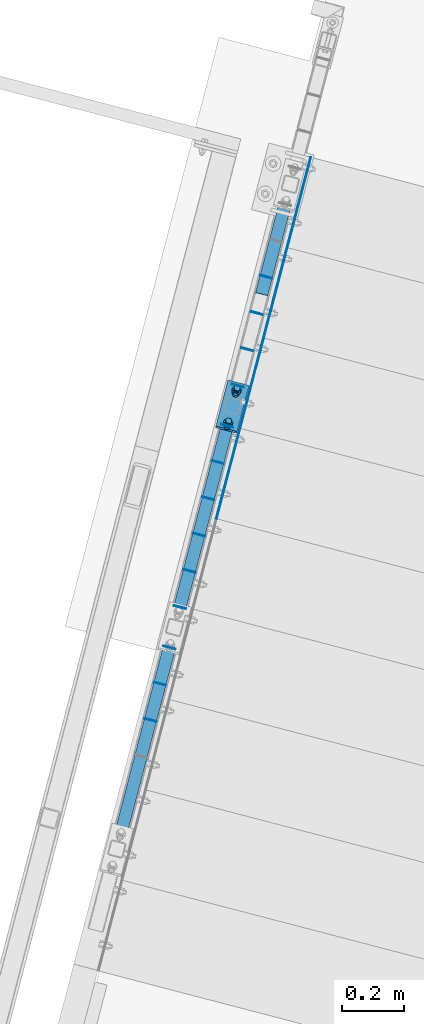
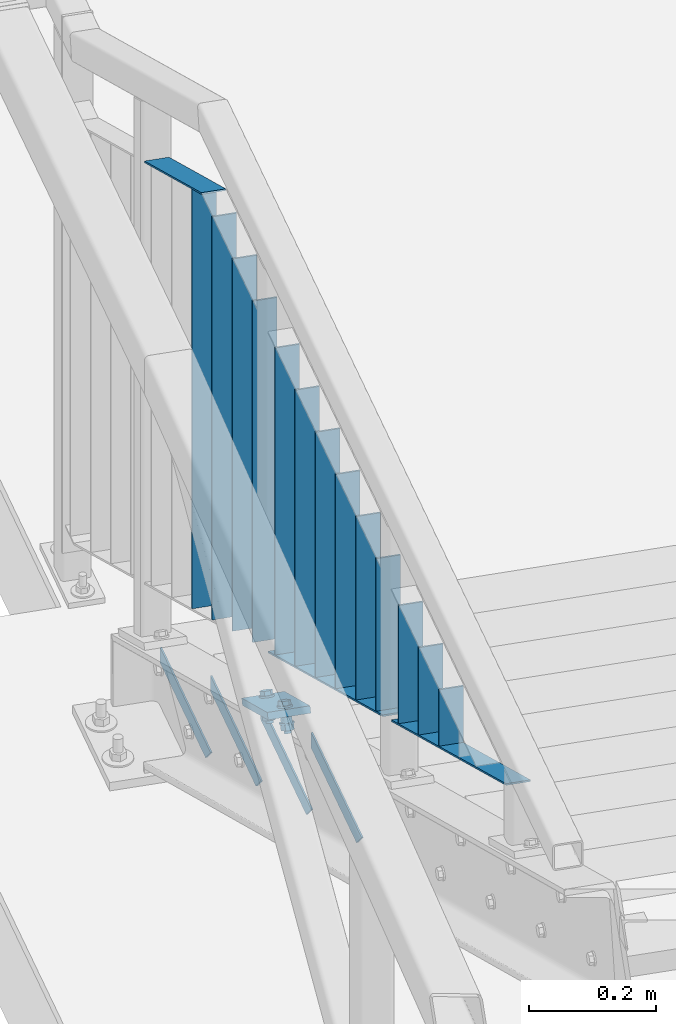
# One storey, part 91 of 169: 21 discrete accessories, 1 mechanical fastener, 5 elements without a shape of their own.
"""IFC2X3 building model written with IfcOpenShell, lengths in millimetres."""

from ifc_helpers import new_model, si_unit, frame, frame_2d, origin_with_axes, origin_2d_with_axis, place, context, subcontext, project, spatial, polyline, circle_curve, parameter, trimmed, segment, composite_curve, rectangle, circle, outline, extrude, boolean, clip, halfspace, source, transform, mapped, material, type_object, element, aggregate, save


model = new_model("IFC2X3")

# Units and contexts
model_context = context("Model", 3, precision=1e-05, world=origin_with_axes())
body_context = subcontext(model_context, "Body", "Model", "MODEL_VIEW")
ifc_project = project(units=[si_unit("LENGTHUNIT", "METRE", prefix="MILLI"), si_unit("AREAUNIT", "SQUARE_METRE"), si_unit("VOLUMEUNIT", "CUBIC_METRE"), si_unit("MASSUNIT", "GRAM", prefix="KILO"), si_unit("TIMEUNIT", "SECOND"), si_unit("PLANEANGLEUNIT", "RADIAN"), si_unit("SOLIDANGLEUNIT", "STERADIAN"), si_unit("THERMODYNAMICTEMPERATUREUNIT", "DEGREE_CELSIUS"), si_unit("LUMINOUSINTENSITYUNIT", "LUMEN")], contexts=[model_context])

# Site, building, storey
site_placement = place(None, origin_with_axes())
site = spatial("IfcSite", under=ifc_project, at=site_placement, Name="Undefined", CompositionType="ELEMENT")
building_placement = place(site_placement, origin_with_axes())
building = spatial("IfcBuilding", under=site, at=building_placement, Name="Undefined", CompositionType="ELEMENT")
storey_placement = place(building_placement, origin_with_axes())
storey = spatial("IfcBuildingStorey", under=building, at=storey_placement, Name="Undefined", CompositionType="ELEMENT", Elevation=0.0)

# Assembly, discrete accessories
assembly_1_placement = place(storey_placement, origin_with_axes())
assembly_1 = element("IfcElementAssembly", 1, at=assembly_1_placement, inside=storey, Name="Steel Assembly", AssemblyPlace="NOTDEFINED", PredefinedType="RIGID_FRAME")
ifc_material_1 = material(Name="STEEL/S235")
discrete_accessory_type_1 = type_object("IfcDiscreteAccessoryType", Name="BLACHA")
discrete_accessory_1_placement = place(assembly_1_placement, frame((-10349.937597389, 20442.5199463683, 13133.5864480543), z_axis=(0.111692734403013, 0.427781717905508, 0.896954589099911), x_axis=(-0.967563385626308, 0.252628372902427, -1.72000000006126e-07)))
discrete_accessory_1 = element("IfcDiscreteAccessory", 2, at=discrete_accessory_1_placement, type_object=discrete_accessory_type_1, material=ifc_material_1, Name="BLACHA", ObjectType="BL12*170", context=body_context, shape_type="SweptSolid", body=[
    extrude(outline(polyline([(70.0000000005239, 84.9999999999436), (70.0000000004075, -84.9999999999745), (-5.82076609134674e-11, -84.99999999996), (5.82076609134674e-11, 84.99999999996), (70.0000000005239, 84.9999999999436)])), frame((-1.81898942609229e-12, -1.81898940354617e-12, -5.99999999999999), z_axis=(0.0, 0.0, 1.0), x_axis=(1.0, 0.0, 0.0)), (0.0, 0.0, 1.0), 12.0),
])
discrete_accessory_type_2 = type_object("IfcDiscreteAccessoryType", Name="PORĘCZ")
discrete_accessory_2_placement = place(assembly_1_placement, frame((-10337.8119101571, 20627.5045962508, 13964.4619369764), z_axis=(0.967563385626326, -0.252628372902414, 0.0), x_axis=(0.226401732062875, 0.867115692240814, -0.443680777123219)))
discrete_accessory_2 = element("IfcDiscreteAccessory", 3, at=discrete_accessory_2_placement, type_object=discrete_accessory_type_2, material=ifc_material_1, Name="PORĘCZ", ObjectType="BL40*3", context=body_context, shape_type="CSG", body=[
    boolean("DIFFERENCE", boolean("DIFFERENCE", boolean("DIFFERENCE", boolean("DIFFERENCE", extrude(rectangle(XDim=3.0, YDim=40.0, at=origin_2d_with_axis()), frame((609.084236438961, -3.60416783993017e-12, 1.80658491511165e-12), z_axis=(-1.0, -3.46944695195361e-18, -1.38777878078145e-17), x_axis=(1.73472347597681e-18, -1.0, 0.0)), (0.0, 0.0, 1.0), 416.0), extrude(rectangle(XDim=51.0, YDim=51.0, at=origin_2d_with_axis()), frame((-262.291557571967, 125.46588545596, -1.2037254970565e-08), z_axis=(0.44368077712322, -0.89618489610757, 2.77484007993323e-11), x_axis=(0.896184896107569, 0.443680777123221, 5.60551815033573e-11)), (0.0, 0.0, 1.0), 280.0)), extrude(rectangle(XDim=51.0, YDim=51.0, at=origin_2d_with_axis()), frame((561.480068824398, 114.373866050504, 3.1358305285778e-08), z_axis=(0.44368077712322, -0.89618489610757, 2.77484007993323e-11), x_axis=(0.896184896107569, 0.443680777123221, 5.60551815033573e-11)), (0.0, 0.0, 1.0), 280.0)), halfspace(frame((595.699348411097, -11.092019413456, 999.99999998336), z_axis=(-0.896184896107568, -0.443680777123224, -5.60462156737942e-11), x_axis=(0.44368077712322, -0.89618489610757, 2.77484007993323e-11)), True)), halfspace(frame((211.612969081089, 1.50000002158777, 1.45742887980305e-07), z_axis=(0.973700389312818, 0.22783228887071, 6.08992453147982e-11), x_axis=(-2.54700353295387e-10, 0.0, -1.0)), True)),
])
discrete_accessory_3_placement = place(assembly_1_placement, frame((-10645.8645457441, 19447.66700417, 13906.1544596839), z_axis=(-0.252628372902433, -0.967563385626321, 0.0), x_axis=(-2.54700353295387e-10, 0.0, -1.0)))
discrete_accessory_3 = element("IfcDiscreteAccessory", 4, at=discrete_accessory_3_placement, type_object=discrete_accessory_type_2, material=ifc_material_1, Name="PORĘCZ", ObjectType="BL40*3", context=body_context, shape_type="Clipping", body=[
    clip(clip(extrude(outline(polyline([(146.326238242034, -19.9999999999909), (37.2368519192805, -19.9999999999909), (37.2368519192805, 19.9999999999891), (146.326238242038, 19.9999999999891), (146.326238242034, -19.9999999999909)])), frame((1.81898940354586e-12, -1.77635442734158e-15, -1.50000000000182), z_axis=(0.0, 0.0, 1.0), x_axis=(1.0, 0.0, 0.0)), (0.0, 0.0, 1.0), 3.0), halfspace(frame((37.2368519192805, 999.999999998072, 1.26674422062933e-08), z_axis=(1.0, 0.0, 0.0), x_axis=(-2.54700353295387e-10, 0.0, -1.0)), True)), halfspace(frame((146.655722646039, 999.999999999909, -0.665521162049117), z_axis=(-0.89618489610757, 8.07050632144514e-16, -0.443680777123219), x_axis=(-0.443680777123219, 6.25441316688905e-11, 0.89618489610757)), True)),
])
discrete_accessory_4_placement = place(assembly_1_placement, frame((-10615.549140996, 19563.7746104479, 13946.7451865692), z_axis=(-0.252628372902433, -0.967563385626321, 0.0), x_axis=(-2.54700353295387e-10, 0.0, -1.0)))
discrete_accessory_4 = element("IfcDiscreteAccessory", 5, at=discrete_accessory_4_placement, type_object=discrete_accessory_type_2, material=ifc_material_1, Name="PORĘCZ", ObjectType="BL40*3", context=body_context, shape_type="Clipping", body=[
    clip(clip(extrude(outline(polyline([(246.326238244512, -19.9999999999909), (77.8275788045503, -19.9999999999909), (77.8275788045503, 19.9999999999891), (246.326238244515, 19.9999999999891), (246.326238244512, -19.9999999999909)])), frame((1.81898940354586e-12, -1.77635442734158e-15, -1.50000000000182), z_axis=(0.0, 0.0, 1.0), x_axis=(1.0, 0.0, 0.0)), (0.0, 0.0, 1.0), 3.0), halfspace(frame((77.8275788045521, 999.999999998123, 1.23091012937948e-08), z_axis=(1.0, 0.0, 0.0), x_axis=(-2.54700353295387e-10, 0.0, -1.0)), True)), halfspace(frame((246.655722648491, 999.999999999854, -0.66552116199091), z_axis=(-0.89618489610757, 8.07050632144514e-16, -0.443680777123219), x_axis=(-0.443680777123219, 6.25441316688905e-11, 0.89618489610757)), True)),
])
discrete_accessory_5_placement = place(assembly_1_placement, frame((-10585.2337362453, 19679.8822167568, 13987.3359134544), z_axis=(-0.252628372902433, -0.967563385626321, 0.0), x_axis=(-2.54700353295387e-10, 0.0, -1.0)))
discrete_accessory_5 = element("IfcDiscreteAccessory", 6, at=discrete_accessory_5_placement, type_object=discrete_accessory_type_2, material=ifc_material_1, Name="PORĘCZ", ObjectType="BL40*3", context=body_context, shape_type="Clipping", body=[
    clip(clip(extrude(outline(polyline([(346.326238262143, -19.9999999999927), (118.41830568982, -19.9999999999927), (118.41830568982, 19.9999999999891), (346.326238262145, 19.9999999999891), (346.326238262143, -19.9999999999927)])), frame((1.81898940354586e-12, -1.77635442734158e-15, -1.50000000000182), z_axis=(0.0, 0.0, 1.0), x_axis=(1.0, 0.0, 0.0)), (0.0, 0.0, 1.0), 3.0), halfspace(frame((118.41830568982, 999.999999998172, 1.19453034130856e-08), z_axis=(1.0, 0.0, 0.0), x_axis=(-2.54700353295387e-10, 0.0, -1.0)), True)), halfspace(frame((346.655722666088, 999.999999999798, -0.665521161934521), z_axis=(-0.89618489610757, 8.07050632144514e-16, -0.443680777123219), x_axis=(-0.443680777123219, 6.25441316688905e-11, 0.89618489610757)), True)),
])
discrete_accessory_6_placement = place(assembly_1_placement, frame((-10551.5507009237, 19808.8878044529, 14121.3270752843), z_axis=(-0.252628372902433, -0.967563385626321, 0.0), x_axis=(-2.54700353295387e-10, 0.0, -1.0)))
discrete_accessory_6 = element("IfcDiscreteAccessory", 7, at=discrete_accessory_6_placement, type_object=discrete_accessory_type_2, material=ifc_material_1, Name="PORĘCZ", ObjectType="BL40*3", context=body_context, shape_type="Clipping", body=[
    clip(clip(extrude(outline(polyline([(546.326238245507, -19.9999999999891), (252.40946751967, -19.9999999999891), (252.40946751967, 19.9999999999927), (546.32623824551, 19.9999999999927), (546.326238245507, -19.9999999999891)])), frame((1.81898940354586e-12, -1.77635442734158e-15, -1.50000000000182), z_axis=(0.0, 0.0, 1.0), x_axis=(1.0, 0.0, 0.0)), (0.0, 0.0, 1.0), 3.0), halfspace(frame((546.655722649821, 999.999999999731, -0.665521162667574), z_axis=(-0.89618489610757, 8.07050632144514e-16, -0.443680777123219), x_axis=(-0.443680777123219, 6.25441316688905e-11, 0.89618489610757)), True)), halfspace(frame((252.409467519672, 999.999999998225, 1.1543306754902e-08), z_axis=(1.0, 0.0, 0.0), x_axis=(-2.54700353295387e-10, 0.0, -1.0)), True)),
])
discrete_accessory_7_placement = place(assembly_1_placement, frame((-10521.2352961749, 19924.9954107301, 14061.9178021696), z_axis=(-0.252628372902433, -0.967563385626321, 0.0), x_axis=(-2.54700353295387e-10, 0.0, -1.0)))
discrete_accessory_7 = element("IfcDiscreteAccessory", 8, at=discrete_accessory_7_placement, type_object=discrete_accessory_type_2, material=ifc_material_1, Name="PORĘCZ", ObjectType="BL40*3", context=body_context, shape_type="Clipping", body=[
    clip(clip(extrude(outline(polyline([(546.326238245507, -19.9999999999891), (193.000194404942, -19.9999999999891), (193.000194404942, 19.9999999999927), (546.32623824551, 19.9999999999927), (546.326238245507, -19.9999999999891)])), frame((1.81898940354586e-12, -1.77635442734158e-15, -1.50000000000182), z_axis=(0.0, 0.0, 1.0), x_axis=(1.0, 0.0, 0.0)), (0.0, 0.0, 1.0), 3.0), halfspace(frame((546.655722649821, 999.999999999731, -0.665521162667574), z_axis=(-0.89618489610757, 8.07050632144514e-16, -0.443680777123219), x_axis=(-0.443680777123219, 6.25441316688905e-11, 0.89618489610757)), True)), halfspace(frame((193.000194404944, 999.999999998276, 1.11831468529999e-08), z_axis=(1.0, 0.0, 0.0), x_axis=(-2.54700353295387e-10, 0.0, -1.0)), True)),
])
discrete_accessory_8_placement = place(assembly_1_placement, frame((-10490.9198914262, 20041.1030170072, 14002.5085290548), z_axis=(-0.252628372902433, -0.967563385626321, 0.0), x_axis=(-2.54700353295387e-10, 0.0, -1.0)))
discrete_accessory_8 = element("IfcDiscreteAccessory", 9, at=discrete_accessory_8_placement, type_object=discrete_accessory_type_2, material=ifc_material_1, Name="PORĘCZ", ObjectType="BL40*3", context=body_context, shape_type="Clipping", body=[
    clip(clip(extrude(outline(polyline([(546.326238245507, -19.9999999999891), (133.590921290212, -19.9999999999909), (133.590921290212, 19.9999999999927), (546.32623824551, 19.9999999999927), (546.326238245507, -19.9999999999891)])), frame((1.81898940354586e-12, -1.77635442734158e-15, -1.50000000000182), z_axis=(0.0, 0.0, 1.0), x_axis=(1.0, 0.0, 0.0)), (0.0, 0.0, 1.0), 3.0), halfspace(frame((546.655722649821, 999.999999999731, -0.665521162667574), z_axis=(-0.89618489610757, 8.07050632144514e-16, -0.443680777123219), x_axis=(-0.443680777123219, 6.25441316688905e-11, 0.89618489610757)), True)), halfspace(frame((133.590921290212, 999.99999999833, 1.08193489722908e-08), z_axis=(1.0, 0.0, 0.0), x_axis=(-2.54700353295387e-10, 0.0, -1.0)), True)),
])
discrete_accessory_9_placement = place(assembly_1_placement, frame((-10460.6044866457, 20157.2106233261, 14343.0992559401), z_axis=(-0.252628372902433, -0.967563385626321, 0.0), x_axis=(-2.54700353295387e-10, 0.0, -1.0)))
discrete_accessory_9 = element("IfcDiscreteAccessory", 10, at=discrete_accessory_9_placement, type_object=discrete_accessory_type_2, material=ifc_material_1, Name="PORĘCZ", ObjectType="BL40*3", context=body_context, shape_type="Clipping", body=[
    clip(clip(extrude(outline(polyline([(946.326238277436, -19.9999999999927), (474.181648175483, -19.9999999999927), (474.181648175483, 19.9999999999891), (946.326238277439, 19.9999999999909), (946.326238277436, -19.9999999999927)])), frame((1.81898940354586e-12, -1.77635442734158e-15, -1.50000000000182), z_axis=(0.0, 0.0, 1.0), x_axis=(1.0, 0.0, 0.0)), (0.0, 0.0, 1.0), 3.0), halfspace(frame((946.655722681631, 999.999999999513, -0.665521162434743), z_axis=(-0.89618489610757, 8.07050632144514e-16, -0.443680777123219), x_axis=(-0.443680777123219, 6.25441316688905e-11, 0.89618489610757)), True)), halfspace(frame((474.181648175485, 999.999999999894, 1.11213012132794e-08), z_axis=(1.0, 0.0, 0.0), x_axis=(-2.54700353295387e-10, 0.0, -1.0)), True)),
])
discrete_accessory_10_placement = place(assembly_1_placement, frame((-10430.2890818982, 20273.3182296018, 14283.6899828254), z_axis=(-0.252628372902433, -0.967563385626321, 0.0), x_axis=(-2.54700353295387e-10, 0.0, -1.0)))
discrete_accessory_10 = element("IfcDiscreteAccessory", 11, at=discrete_accessory_10_placement, type_object=discrete_accessory_type_2, material=ifc_material_1, Name="PORĘCZ", ObjectType="BL40*3", context=body_context, shape_type="Clipping", body=[
    clip(clip(extrude(outline(polyline([(946.326238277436, -19.9999999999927), (414.772375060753, -19.9999999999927), (414.772375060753, 19.9999999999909), (946.326238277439, 19.9999999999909), (946.326238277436, -19.9999999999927)])), frame((1.81898940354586e-12, -1.77635442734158e-15, -1.50000000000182), z_axis=(0.0, 0.0, 1.0), x_axis=(1.0, 0.0, 0.0)), (0.0, 0.0, 1.0), 3.0), halfspace(frame((946.655722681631, 999.999999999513, -0.665521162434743), z_axis=(-0.89618489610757, 8.07050632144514e-16, -0.443680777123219), x_axis=(-0.443680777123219, 6.25441316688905e-11, 0.89618489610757)), True)), halfspace(frame((414.772375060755, 999.999999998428, 1.00990291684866e-08), z_axis=(1.0, 0.0, 0.0), x_axis=(-2.54700353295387e-10, 0.0, -1.0)), True)),
])
discrete_accessory_11_placement = place(assembly_1_placement, frame((-10399.9736771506, 20389.4258358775, 14224.2807097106), z_axis=(-0.252628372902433, -0.967563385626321, 0.0), x_axis=(-2.54700353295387e-10, 0.0, -1.0)))
discrete_accessory_11 = element("IfcDiscreteAccessory", 12, at=discrete_accessory_11_placement, type_object=discrete_accessory_type_2, material=ifc_material_1, Name="PORĘCZ", ObjectType="BL40*3", context=body_context, shape_type="Clipping", body=[
    clip(clip(extrude(outline(polyline([(946.326238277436, -19.9999999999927), (355.363101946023, -19.9999999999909), (355.363101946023, 19.9999999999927), (946.326238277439, 19.9999999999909), (946.326238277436, -19.9999999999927)])), frame((1.81898940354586e-12, -1.77635442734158e-15, -1.50000000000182), z_axis=(0.0, 0.0, 1.0), x_axis=(1.0, 0.0, 0.0)), (0.0, 0.0, 1.0), 3.0), halfspace(frame((946.655722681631, 999.999999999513, -0.665521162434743), z_axis=(-0.89618489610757, 8.07050632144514e-16, -0.443680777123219), x_axis=(-0.443680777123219, 6.25441316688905e-11, 0.89618489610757)), True)), halfspace(frame((355.363101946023, 999.999999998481, 9.73159330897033e-09), z_axis=(1.0, 0.0, 0.0), x_axis=(-2.54700353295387e-10, 0.0, -1.0)), True)),
])
discrete_accessory_12_placement = place(assembly_1_placement, frame((-10366.2906418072, 20518.4314235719, 14165.2718715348), z_axis=(-0.252628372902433, -0.967563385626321, 0.0), x_axis=(-2.54700353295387e-10, 0.0, -1.0)))
discrete_accessory_12 = element("IfcDiscreteAccessory", 13, at=discrete_accessory_12_placement, type_object=discrete_accessory_type_2, material=ifc_material_1, Name="PORĘCZ", ObjectType="BL40*3", context=body_context, shape_type="Clipping", body=[
    clip(clip(clip(extrude(outline(polyline([(953.326238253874, -19.9999999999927), (296.35426377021, -19.9999999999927), (296.35426377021, 19.9999999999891), (953.326238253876, 19.9999999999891), (953.326238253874, -19.9999999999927)])), frame((1.81898940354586e-12, -1.77635442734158e-15, -1.50000000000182), z_axis=(0.0, 0.0, 1.0), x_axis=(1.0, 0.0, 0.0)), (0.0, 0.0, 1.0), 3.0), halfspace(frame((953.655722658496, 999.999999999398, -0.665521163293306), z_axis=(-0.89618489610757, 8.07050632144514e-16, -0.443680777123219), x_axis=(-0.443680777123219, 6.25441316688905e-11, 0.89618489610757)), True)), halfspace(frame((296.354263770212, 999.9999999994, 5.73709257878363e-09), z_axis=(1.0, 0.0, 0.0), x_axis=(-2.54700353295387e-10, 0.0, -1.0)), True)), halfspace(frame((953.655722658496, 999.999999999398, -0.665521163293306), z_axis=(-0.89618489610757, 8.07050632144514e-16, -0.443680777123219), x_axis=(-0.443680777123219, 6.25441316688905e-11, 0.89618489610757)), True)),
])
discrete_accessory_13_placement = place(assembly_1_placement, frame((-10335.9752370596, 20634.5390298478, 14105.8625984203), z_axis=(-0.252628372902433, -0.967563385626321, 0.0), x_axis=(-2.54700353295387e-10, 0.0, -1.0)))
discrete_accessory_13 = element("IfcDiscreteAccessory", 14, at=discrete_accessory_13_placement, type_object=discrete_accessory_type_2, material=ifc_material_1, Name="PORĘCZ", ObjectType="BL40*3", context=body_context, shape_type="Clipping", body=[
    clip(clip(clip(extrude(outline(polyline([(953.326238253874, -19.9999999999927), (236.944990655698, -19.9999999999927), (236.944990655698, 19.9999999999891), (953.326238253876, 19.9999999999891), (953.326238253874, -19.9999999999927)])), frame((1.81898940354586e-12, -1.77635442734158e-15, -1.50000000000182), z_axis=(0.0, 0.0, 1.0), x_axis=(1.0, 0.0, 0.0)), (0.0, 0.0, 1.0), 3.0), halfspace(frame((953.655722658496, 999.999999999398, -0.665521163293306), z_axis=(-0.89618489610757, 8.07050632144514e-16, -0.443680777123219), x_axis=(-0.443680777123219, 6.25441316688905e-11, 0.89618489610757)), True)), halfspace(frame((236.9449906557, 999.999999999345, 5.43877831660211e-09), z_axis=(1.0, 0.0, 0.0), x_axis=(-2.54700353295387e-10, 0.0, -1.0)), True)), halfspace(frame((953.655722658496, 999.999999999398, -0.665521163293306), z_axis=(-0.89618489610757, 8.07050632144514e-16, -0.443680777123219), x_axis=(-0.443680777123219, 6.25441316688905e-11, 0.89618489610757)), True)),
])
discrete_accessory_14_placement = place(assembly_1_placement, frame((-10305.6598323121, 20750.6466361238, 14046.4533253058), z_axis=(-0.252628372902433, -0.967563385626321, 0.0), x_axis=(-2.54700353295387e-10, 0.0, -1.0)))
discrete_accessory_14 = element("IfcDiscreteAccessory", 15, at=discrete_accessory_14_placement, type_object=discrete_accessory_type_2, material=ifc_material_1, Name="PORĘCZ", ObjectType="BL40*3", context=body_context, shape_type="Clipping", body=[
    clip(clip(clip(extrude(outline(polyline([(953.326238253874, -19.9999999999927), (177.535717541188, -19.9999999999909), (177.535717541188, 19.9999999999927), (953.326238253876, 19.9999999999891), (953.326238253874, -19.9999999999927)])), frame((1.81898940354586e-12, -1.77635442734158e-15, -1.50000000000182), z_axis=(0.0, 0.0, 1.0), x_axis=(1.0, 0.0, 0.0)), (0.0, 0.0, 1.0), 3.0), halfspace(frame((177.53571754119, 999.999999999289, 5.12591213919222e-09), z_axis=(1.0, 0.0, 0.0), x_axis=(-2.54700353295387e-10, 0.0, -1.0)), True)), halfspace(frame((953.655722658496, 999.999999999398, -0.665521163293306), z_axis=(-0.89618489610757, 8.07050632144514e-16, -0.443680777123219), x_axis=(-0.443680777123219, 6.25441316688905e-11, 0.89618489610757)), True)), halfspace(frame((953.655722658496, 999.999999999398, -0.665521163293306), z_axis=(-0.89618489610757, 8.07050632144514e-16, -0.443680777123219), x_axis=(-0.443680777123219, 6.25441316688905e-11, 0.89618489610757)), True)),
])
discrete_accessory_15_placement = place(assembly_1_placement, frame((-10275.3444275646, 20866.7542423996, 13987.0440521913), z_axis=(-0.252628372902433, -0.967563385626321, 0.0), x_axis=(-2.54700353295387e-10, 0.0, -1.0)))
discrete_accessory_15 = element("IfcDiscreteAccessory", 16, at=discrete_accessory_15_placement, type_object=discrete_accessory_type_2, material=ifc_material_1, Name="PORĘCZ", ObjectType="BL40*3", context=body_context, shape_type="Clipping", body=[
    clip(clip(clip(extrude(outline(polyline([(953.326238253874, -19.9999999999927), (146.673761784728, -19.9999999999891), (146.67376178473, 19.9999999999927), (953.326238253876, 19.9999999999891), (953.326238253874, -19.9999999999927)])), frame((1.81898940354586e-12, -1.77635442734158e-15, -1.50000000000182), z_axis=(0.0, 0.0, 1.0), x_axis=(1.0, 0.0, 0.0)), (0.0, 0.0, 1.0), 3.0), halfspace(frame((146.34427734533, 999.999999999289, 0.66552116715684), z_axis=(0.89618489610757, -8.07050632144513e-16, 0.443680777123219), x_axis=(0.443680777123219, -6.25441316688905e-11, -0.89618489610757)), True)), halfspace(frame((953.655722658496, 999.999999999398, -0.665521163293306), z_axis=(-0.89618489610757, 8.07050632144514e-16, -0.443680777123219), x_axis=(-0.443680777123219, 6.25441316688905e-11, 0.89618489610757)), True)), halfspace(frame((953.655722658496, 999.999999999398, -0.665521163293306), z_axis=(-0.89618489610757, 8.07050632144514e-16, -0.443680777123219), x_axis=(-0.443680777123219, 6.25441316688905e-11, 0.89618489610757)), True)),
])
discrete_accessory_16_placement = place(assembly_1_placement, frame((-10753.6522776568, 19034.8413915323, 13969.3866981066), z_axis=(0.967563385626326, -0.252628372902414, 0.0), x_axis=(0.226401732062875, 0.867115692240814, -0.443680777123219)))
discrete_accessory_16 = element("IfcDiscreteAccessory", 17, at=discrete_accessory_16_placement, type_object=discrete_accessory_type_2, material=ifc_material_1, Name="PORĘCZ", ObjectType="BL40*3", context=body_context, shape_type="CSG", body=[
    boolean("DIFFERENCE", boolean("DIFFERENCE", extrude(rectangle(XDim=3.0, YDim=40.0, at=origin_2d_with_axis()), frame((818.280219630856, -3.63797880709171e-12, 1.82945031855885e-12), z_axis=(-1.0, -3.46944695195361e-18, -1.38777878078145e-17), x_axis=(1.73472347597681e-18, -1.0, 0.0)), (0.0, 0.0, 1.0), 818.28), extrude(rectangle(XDim=51.0, YDim=51.0, at=origin_2d_with_axis()), frame((-62.1153087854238, 125.465885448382, -3.44399542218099e-09), z_axis=(0.44368077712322, -0.89618489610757, 2.77484007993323e-11), x_axis=(0.896184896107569, 0.443680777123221, 5.60551815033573e-11)), (0.0, 0.0, 1.0), 280.0)), extrude(rectangle(XDim=51.0, YDim=51.0, at=origin_2d_with_axis()), frame((756.164910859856, 125.465885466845, 3.9541654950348e-08), z_axis=(0.44368077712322, -0.89618489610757, 2.77484007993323e-11), x_axis=(0.896184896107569, 0.443680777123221, 5.60551815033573e-11)), (0.0, 0.0, 1.0), 280.0)),
])
discrete_accessory_17_placement = place(assembly_1_placement, frame((-10568.3922185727, 19744.3850106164, 13606.3314943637), z_axis=(0.967563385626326, -0.252628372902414, 0.0), x_axis=(0.226401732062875, 0.867115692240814, -0.443680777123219)))
discrete_accessory_17 = element("IfcDiscreteAccessory", 18, at=discrete_accessory_17_placement, type_object=discrete_accessory_type_2, material=ifc_material_1, Name="PORĘCZ", ObjectType="BL40*3", context=body_context, shape_type="CSG", body=[
    boolean("DIFFERENCE", boolean("DIFFERENCE", boolean("DIFFERENCE", extrude(rectangle(XDim=3.0, YDim=40.0, at=origin_2d_with_axis()), frame((799.420677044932, 0.0, 3.24081951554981e-14), z_axis=(-1.0, -3.46944695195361e-18, -1.38777878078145e-17), x_axis=(1.73472347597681e-18, -1.0, 0.0)), (0.0, 0.0, 1.0), 799.42), extrude(rectangle(XDim=51.0, YDim=51.0, at=origin_2d_with_axis()), frame((-62.1153087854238, 125.465885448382, -3.44399542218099e-09), z_axis=(0.44368077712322, -0.89618489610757, 2.77484007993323e-11), x_axis=(0.896184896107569, 0.443680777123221, 5.60551815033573e-11)), (0.0, 0.0, 1.0), 280.0)), extrude(rectangle(XDim=51.0, YDim=51.0, at=origin_2d_with_axis()), frame((756.164910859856, 125.465885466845, 3.9541654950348e-08), z_axis=(0.44368077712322, -0.89618489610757, 2.77484007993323e-11), x_axis=(0.896184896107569, 0.443680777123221, 5.60551815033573e-11)), (0.0, 0.0, 1.0), 280.0)), halfspace(frame((795.87559720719, -11.0920194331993, 999.999999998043), z_axis=(-0.896184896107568, -0.443680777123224, -5.60462156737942e-11), x_axis=(0.44368077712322, -0.89618489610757, 2.77484007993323e-11)), True)),
])

# Assembly, discrete accessory
assembly_2_placement = place(storey_placement, origin_with_axes())
assembly_2 = element("IfcElementAssembly", 19, at=assembly_2_placement, inside=storey, Name="Steel Assembly", AssemblyPlace="NOTDEFINED", PredefinedType="RIGID_FRAME")
ifc_material_2 = material(Name="STEEL/S235JR")
discrete_accessory_type_3 = type_object("IfcDiscreteAccessoryType", Name="ANGLE")
discrete_accessory_18_placement = place(assembly_2_placement, frame((-10434.8975093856, 20091.3950917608, 13100.9481087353), z_axis=(0.967563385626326, -0.252628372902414, 0.0), x_axis=(0.252628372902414, 0.967563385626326, 0.0)))
discrete_accessory_18 = element("IfcDiscreteAccessory", 20, at=discrete_accessory_18_placement, type_object=discrete_accessory_type_3, material=ifc_material_2, Name="ANGLE", ObjectType="3*30", context=body_context, shape_type="CSG", body=[
    boolean("DIFFERENCE", extrude(rectangle(XDim=30.0, YDim=3.0, at=origin_2d_with_axis()), frame((300.000000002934, 1.81898940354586e-12, -1.81898940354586e-12), z_axis=(-1.0, -3.46944695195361e-18, -1.38777878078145e-17), x_axis=(1.73472347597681e-18, -1.0, 0.0)), (0.0, 0.0, 1.0), 300.0), extrude(outline(polyline([(0.0, 0.0), (30.0000000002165, -6.73026079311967e-11), (30.0000000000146, 30.0000000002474), (0.0, 0.0)])), frame((-7.09587991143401e-09, 14.9999999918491, -4.4999999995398), z_axis=(0.0, 0.0, 1.0), x_axis=(1.73472347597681e-18, -1.0, 0.0)), (0.0, 0.0, 1.0), 9.0)),
])
aggregate(assembly_2, [discrete_accessory_18])

assembly_3_placement = place(storey_placement, origin_with_axes())
assembly_3 = element("IfcElementAssembly", 21, at=assembly_3_placement, inside=storey, Name="Steel Assembly", AssemblyPlace="NOTDEFINED", PredefinedType="RIGID_FRAME")
discrete_accessory_19_placement = place(assembly_3_placement, frame((-10359.3463041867, 20380.75522591, 12953.5365255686), z_axis=(0.967563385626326, -0.252628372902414, 0.0), x_axis=(0.252628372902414, 0.967563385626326, 0.0)))
discrete_accessory_19 = element("IfcDiscreteAccessory", 22, at=discrete_accessory_19_placement, type_object=discrete_accessory_type_3, material=ifc_material_2, Name="ANGLE", ObjectType="3*30", context=body_context, shape_type="CSG", body=[
    boolean("DIFFERENCE", extrude(rectangle(XDim=30.0, YDim=3.0, at=origin_2d_with_axis()), frame((300.000000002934, 1.81898940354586e-12, -1.81898940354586e-12), z_axis=(-1.0, -3.46944695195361e-18, -1.38777878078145e-17), x_axis=(1.73472347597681e-18, -1.0, 0.0)), (0.0, 0.0, 1.0), 300.0), extrude(outline(polyline([(0.0, 0.0), (30.0000000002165, -6.73026079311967e-11), (30.0000000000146, 30.0000000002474), (0.0, 0.0)])), frame((-7.09587991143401e-09, 14.9999999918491, -4.4999999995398), z_axis=(0.0, 0.0, 1.0), x_axis=(1.73472347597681e-18, -1.0, 0.0)), (0.0, 0.0, 1.0), 9.0)),
])
aggregate(assembly_3, [discrete_accessory_19])

assembly_4_placement = place(storey_placement, origin_with_axes())
assembly_4 = element("IfcElementAssembly", 23, at=assembly_4_placement, inside=storey, Name="Steel Assembly", AssemblyPlace="NOTDEFINED", PredefinedType="RIGID_FRAME")
discrete_accessory_20_placement = place(assembly_4_placement, frame((-10283.7950989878, 20670.1153600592, 12806.124942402), z_axis=(0.967563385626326, -0.252628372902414, 0.0), x_axis=(0.252628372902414, 0.967563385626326, 0.0)))
discrete_accessory_20 = element("IfcDiscreteAccessory", 24, at=discrete_accessory_20_placement, type_object=discrete_accessory_type_3, material=ifc_material_2, Name="ANGLE", ObjectType="3*30", context=body_context, shape_type="CSG", body=[
    boolean("DIFFERENCE", extrude(rectangle(XDim=30.0, YDim=3.0, at=origin_2d_with_axis()), frame((300.000000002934, 1.81898940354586e-12, -1.81898940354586e-12), z_axis=(-1.0, -3.46944695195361e-18, -1.38777878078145e-17), x_axis=(1.73472347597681e-18, -1.0, 0.0)), (0.0, 0.0, 1.0), 300.0), extrude(outline(polyline([(0.0, 0.0), (30.0000000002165, -6.73026079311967e-11), (30.0000000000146, 30.0000000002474), (0.0, 0.0)])), frame((-7.09587991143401e-09, 14.9999999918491, -4.4999999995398), z_axis=(0.0, 0.0, 1.0), x_axis=(1.73472347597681e-18, -1.0, 0.0)), (0.0, 0.0, 1.0), 9.0)),
])
aggregate(assembly_4, [discrete_accessory_20])

assembly_5_placement = place(storey_placement, origin_with_axes())
assembly_5 = element("IfcElementAssembly", 25, at=assembly_5_placement, inside=storey, Name="Steel Assembly", AssemblyPlace="NOTDEFINED", PredefinedType="RIGID_FRAME")
discrete_accessory_21_placement = place(assembly_5_placement, frame((-10208.2438937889, 20959.4754942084, 12658.7133592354), z_axis=(0.967563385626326, -0.252628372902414, 0.0), x_axis=(0.252628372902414, 0.967563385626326, 0.0)))
discrete_accessory_21 = element("IfcDiscreteAccessory", 26, at=discrete_accessory_21_placement, type_object=discrete_accessory_type_3, material=ifc_material_2, Name="ANGLE", ObjectType="3*30", context=body_context, shape_type="CSG", body=[
    boolean("DIFFERENCE", extrude(rectangle(XDim=30.0, YDim=3.0, at=origin_2d_with_axis()), frame((300.000000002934, 1.81898940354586e-12, -1.81898940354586e-12), z_axis=(-1.0, -3.46944695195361e-18, -1.38777878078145e-17), x_axis=(1.73472347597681e-18, -1.0, 0.0)), (0.0, 0.0, 1.0), 300.0), extrude(outline(polyline([(0.0, 0.0), (30.0000000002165, -6.73026079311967e-11), (30.0000000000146, 30.0000000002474), (0.0, 0.0)])), frame((-7.09587991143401e-09, 14.9999999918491, -4.4999999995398), z_axis=(0.0, 0.0, 1.0), x_axis=(1.73472347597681e-18, -1.0, 0.0)), (0.0, 0.0, 1.0), 9.0)),
])
aggregate(assembly_5, [discrete_accessory_21])

# Mechanical fastener
ifc_material_3 = material(Name="Undefined")
discrete_accessory_type_4 = type_object("IfcDiscreteAccessoryType", Name="Bolt assembly")
shared_shape = source(origin_with_axes(), body_context, "Body", "SweptSolid", [
    extrude(outline(composite_curve([segment(polyline([(7.5, 7.5), (7.5, -7.5)]), True, "CONTINUOUS"), segment(trimmed(circle_curve(frame_2d((0.0, -7.5), x_axis=(1.0, 0.0)), 7.5), [parameter(0.0)], [parameter(3.14159265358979)], False, "PARAMETER"), True, "CONTINUOUS"), segment(polyline([(-7.5, -7.5), (-7.5, 7.5)]), True, "CONTINUOUS"), segment(trimmed(circle_curve(frame_2d((0.0, 7.5), x_axis=(-1.0, 0.0)), 7.5), [parameter(0.0)], [parameter(3.14159265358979)], False, "PARAMETER"), True, "DISCONTINUOUS")], self_intersect=False)), frame((0.0, 0.900000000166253, 0.0), z_axis=(0.0, 1.0, 0.0), x_axis=(1.0, 0.0, 0.0)), (0.0, 0.0, 1.0), 11.1),
    extrude(outline(composite_curve([segment(polyline([(-7.5, 7.5), (7.5, 7.5)]), True, "CONTINUOUS"), segment(trimmed(circle_curve(frame_2d((7.5, 0.0), x_axis=(0.0, 1.0)), 7.5), [parameter(0.0)], [parameter(3.14159265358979)], False, "PARAMETER"), True, "CONTINUOUS"), segment(polyline([(7.5, -7.5), (-7.5, -7.5)]), True, "CONTINUOUS"), segment(trimmed(circle_curve(frame_2d((-7.5, 0.0), x_axis=(0.0, -1.0)), 7.5), [parameter(0.0)], [parameter(3.14159265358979)], False, "PARAMETER"), True, "DISCONTINUOUS")], self_intersect=False)), frame((0.0, -11.9000000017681, 0.0), z_axis=(0.0, 1.0, 0.0), x_axis=(1.0, 0.0, 0.0)), (0.0, 0.0, 1.0), 12.0),
    extrude(outline(polyline([(10.39230484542, 0.0), (5.19615242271, 9.00000000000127), (-5.19615242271, 9.00000000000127), (-10.39230484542, 0.0), (-5.19615242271, -9.00000000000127), (5.19615242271, -9.00000000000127), (10.39230484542, 0.0)])), frame((0.0, -22.5000000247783, 0.0), z_axis=(0.0, 1.0, 0.0), x_axis=(1.0, 0.0, 0.0)), (0.0, 0.0, 1.0), 7.5),
    extrude(circle(Radius=6.0, at=origin_2d_with_axis()), frame((0.0, -15.0000000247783, 0.0), z_axis=(0.0, 1.0, 0.0), x_axis=(1.0, 0.0, 0.0)), (0.0, 0.0, 1.0), 45.0),
    extrude(circle(Radius=12.0, at=origin_2d_with_axis()), frame((0.0, -15.0000000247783, 0.0), z_axis=(0.0, 1.0, 0.0), x_axis=(1.0, 0.0, 0.0)), (0.0, 0.0, 1.0), 3.0),
    extrude(circle(Radius=12.0, at=origin_2d_with_axis()), frame((0.0, 12.000000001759, 0.0), z_axis=(0.0, 1.0, 0.0), x_axis=(1.0, 0.0, 0.0)), (0.0, 0.0, 1.0), 3.0),
    extrude(outline(polyline([(10.96965511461, 0.0), (5.484827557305, 9.50000000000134), (-5.484827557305, 9.50000000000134), (-10.96965511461, 0.0), (-5.484827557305, -9.50000000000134), (5.484827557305, -9.50000000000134), (10.96965511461, 0.0)])), frame((0.0, 14.9999935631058, 0.0), z_axis=(0.0, 1.0, 0.0), x_axis=(1.0, 0.0, 0.0)), (0.0, 0.0, 1.0), 10.0),
])
mechanical_fastener_placement = place(assembly_1_placement, frame((-10408.6615569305, 20455.1109584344, 13128.204720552), z_axis=(0.226596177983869, 0.867860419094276, -0.442122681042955), x_axis=(0.967563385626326, -0.252628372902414, 0.0)))
mechanical_fastener = element("IfcMechanicalFastener", 27, at=mechanical_fastener_placement, type_object=discrete_accessory_type_4, material=ifc_material_3, Name="Bolt assembly", NominalDiameter=12.0, NominalLength=45.0, context=body_context, shape_type="MappedRepresentation", body=[
    mapped(shared_shape, transform((24.9999999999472, 0.0, -60.0000000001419))),
    mapped(shared_shape, transform((24.9999999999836, -3.54702933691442e-11, 60.0000000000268))),
])

aggregate(assembly_1, [mechanical_fastener, discrete_accessory_1, discrete_accessory_2, discrete_accessory_3, discrete_accessory_4, discrete_accessory_5, discrete_accessory_6, discrete_accessory_7, discrete_accessory_8, discrete_accessory_9, discrete_accessory_10, discrete_accessory_11, discrete_accessory_12, discrete_accessory_13, discrete_accessory_14, discrete_accessory_15, discrete_accessory_16, discrete_accessory_17])

save(model, "model.ifc")
